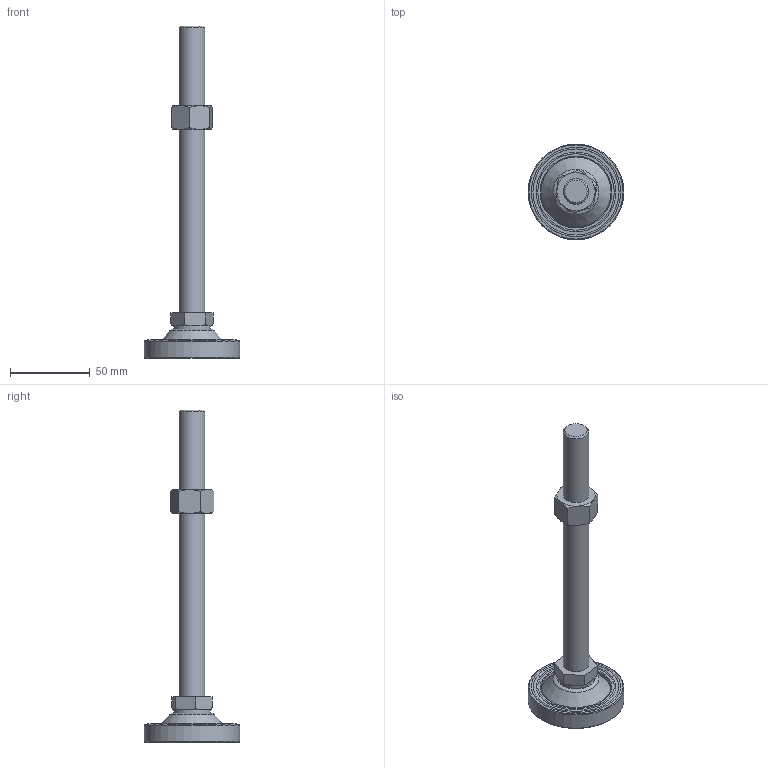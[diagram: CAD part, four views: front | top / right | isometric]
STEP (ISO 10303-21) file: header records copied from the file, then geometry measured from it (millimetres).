
FILE_DESCRIPTION((' '),'2;1');
FILE_NAME('Y:\00. A standard brand\06. 3D Modeling\외부전송용_STEP\LEVELLING FOOT(STEP)\A-PLR SERIES STEP\A-PLR-16-180.stp.stp','2011-11-22T18:41:30',(' '),(' '),' ','ACIS',' ');
FILE_SCHEMA(('CONFIG_CONTROL_DESIGN'));
Length unit declared in the file: millimetre
Products named in the file (1): Y:\00. A standard brand\06. 3D Modeling\외부전송용_STEP\LEVELLING FOOT(STEP)\A-PLR SERIES STEP\A-PLR-16-180.stp.stp
Bounding box: 60 x 60 x 208.31 mm (x, y, z)
Volume: 72911.5 mm3; surface area: 25706.7 mm2
Topology: 3 solids, 4 shells, 114 faces, 253 edges, 157 vertices
Faces by surface type: plane 55, cylinder 20, cone 17, torus 15, bspline 7
Full cylindrical faces by diameter (mm): 8 x1, 12 x2, 16 x3, 19.27 x1, 23 x1, 31 x1, 44 x2, 60 x1
Entity records: 3372 total; most frequent: CARTESIAN_POINT 970, DIRECTION 476, ORIENTED_EDGE 424, EDGE_CURVE 212, AXIS2_PLACEMENT_3D 192, EDGE_LOOP 160, VERTEX_POINT 149, FACE_OUTER_BOUND 114
